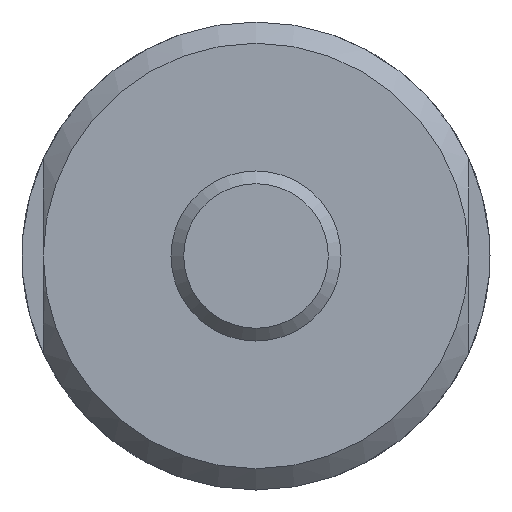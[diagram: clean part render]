
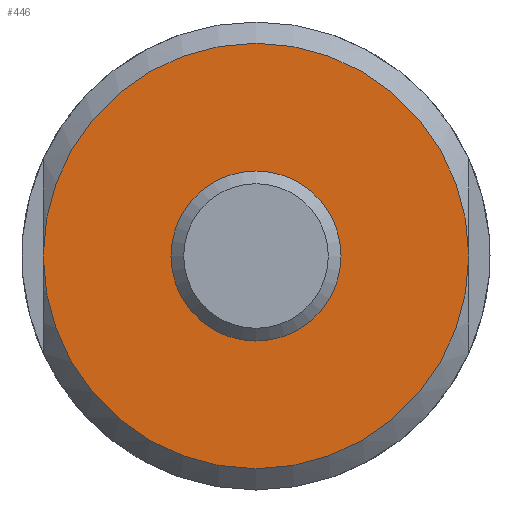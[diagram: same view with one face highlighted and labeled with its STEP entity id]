
A CAD part, left-side view. The second image highlights one B-rep face of the part: STEP entity #446.
In plain terms, the highlighted planar face has unit normal (-1, 0, 0).
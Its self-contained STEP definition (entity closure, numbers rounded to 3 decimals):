
#145=ORIENTED_EDGE('',*,*,#217,.T.);
#146=ORIENTED_EDGE('',*,*,#207,.F.);
#147=ORIENTED_EDGE('',*,*,#205,.F.);
#205=EDGE_CURVE('',#250,#248,#283,.T.);
#207=EDGE_CURVE('',#248,#250,#284,.T.);
#217=EDGE_CURVE('',#258,#258,#289,.T.);
#248=VERTEX_POINT('',#772);
#250=VERTEX_POINT('',#779);
#258=VERTEX_POINT('',#809);
#283=CIRCLE('',#522,5.);
#284=CIRCLE('',#524,5.);
#289=CIRCLE('',#531,2.);
#331=EDGE_LOOP('',(#145));
#332=EDGE_LOOP('',(#146,#147));
#387=FACE_BOUND('',#331,.T.);
#388=FACE_BOUND('',#332,.T.);
#418=PLANE('',#530);
#446=ADVANCED_FACE('',(#387,#388),#418,.F.);
#522=AXIS2_PLACEMENT_3D('',#780,#636,#637);
#524=AXIS2_PLACEMENT_3D('',#787,#640,#641);
#530=AXIS2_PLACEMENT_3D('',#807,#656,#657);
#531=AXIS2_PLACEMENT_3D('',#808,#658,#659);
#636=DIRECTION('',(1.,0.,0.));
#637=DIRECTION('',(0.,0.,-1.));
#640=DIRECTION('',(1.,0.,0.));
#641=DIRECTION('',(0.,0.,-1.));
#656=DIRECTION('',(1.,0.,0.));
#657=DIRECTION('',(0.,0.,-1.));
#658=DIRECTION('',(1.,0.,0.));
#659=DIRECTION('',(0.,0.,-1.));
#772=CARTESIAN_POINT('',(0.,-5.,0.));
#779=CARTESIAN_POINT('',(0.,5.,0.));
#780=CARTESIAN_POINT('',(0.,0.,0.));
#787=CARTESIAN_POINT('',(0.,0.,0.));
#807=CARTESIAN_POINT('',(0.,0.,0.));
#808=CARTESIAN_POINT('',(0.,0.,0.));
#809=CARTESIAN_POINT('',(0.,0.,-2.));
